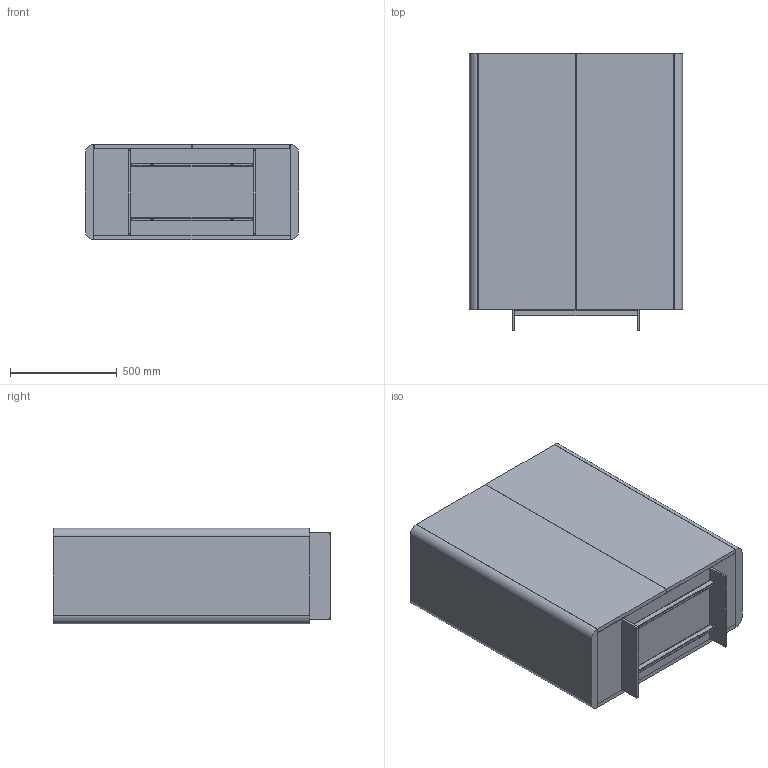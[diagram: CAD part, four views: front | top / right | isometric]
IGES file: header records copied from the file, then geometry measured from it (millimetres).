
Start section: SolidWorks IGES file using analytic representation for surfaces
Global section: file name: Y:\eforma\TECNICO\SOLIDWORKS\E-FORMA\6-MADIE\ALMA\02 parts\AL3LC_Alma_100x45x130h_Top Ceramic.IGS; native system: SolidWorks 2022; preprocessor: SolidWorks 2022; author: eforma.tech; date: 240806.100616; units: millimetre
Bounding box: 1000 x 1303 x 450 mm (x, y, z)
Volume: 113165535 mm3; surface area: 11230029 mm2
Topology: 15 solids, 15 shells, 217 faces, 554 edges, 349 vertices
Faces by surface type: plane 113, revolution 104
